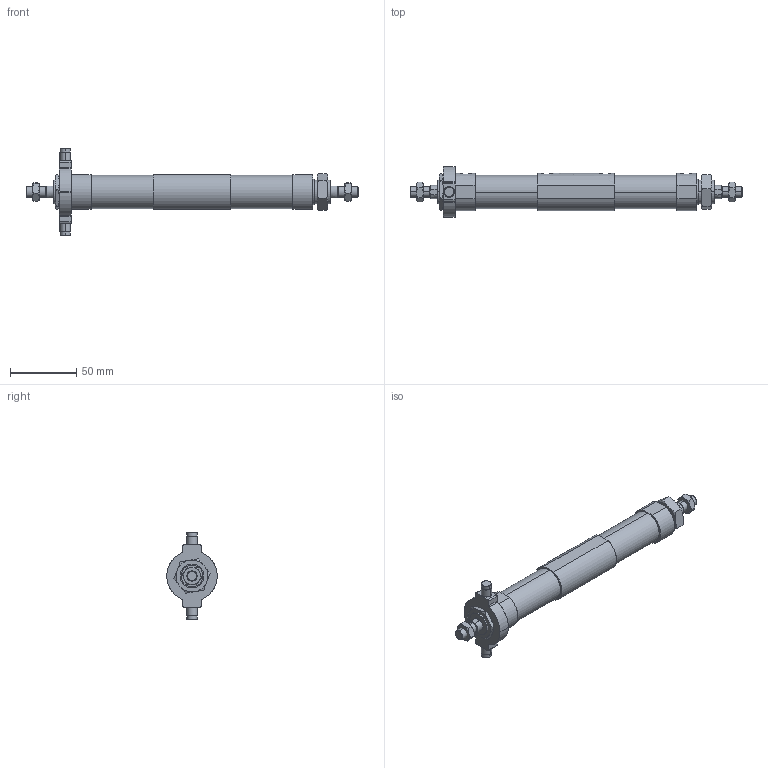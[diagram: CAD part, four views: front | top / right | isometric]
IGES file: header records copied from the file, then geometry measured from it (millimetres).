
Start section: SolidWorks IGES file using analytic representation for surfaces
Global section: file name: C:\Users\Toshiba\Desktop\JGD7-20-15-15-T.IGS; native system: SolidWorks 2014; preprocessor: SolidWorks 2014; author: Toshiba; date: 160419.152155; units: millimetre
Bounding box: 250 x 38 x 66 mm (x, y, z)
Surface area: 32506.4 mm2 (no closed solid volume)
Topology: 0 solids, 0 shells, 205 faces, 3500 edges, 3500 vertices
Faces by surface type: bspline 126, revolution 79
